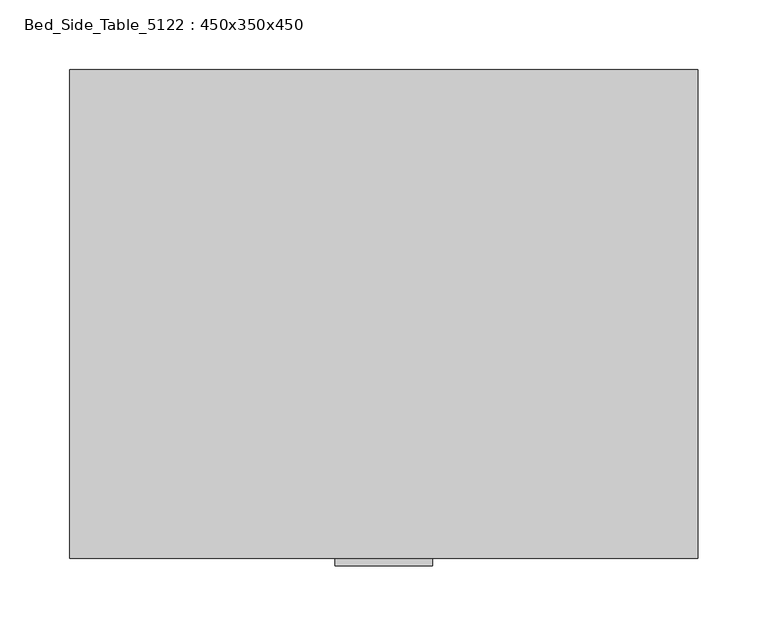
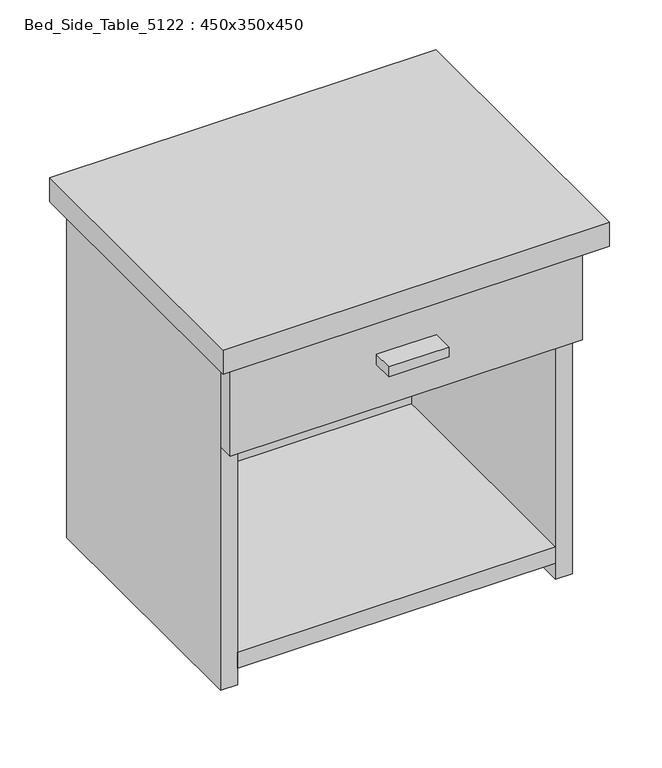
"""IFC4 building model written with IfcOpenShell, lengths in millimetres: furniture geometry, Bed_Side_Table_5122 : 450x350x450."""

from ifc_helpers import new_model, si_unit, frame, origin, origin_with_axes, place, context, project, spatial, polyline, outline, extrude, source, transform, mapped, element, save


def bed_side_table_5122_450x350x450_1b9dee2a(model_context):
    return source(origin(), model_context, "Body", "SweptSolid", [
        extrude(outline(polyline([(185.0, -208.6), (-185.0, -208.6), (-185.0, 81.4), (185.0, 81.4), (185.0, -208.6)])), frame((0.0, 0.0, 20.0), z_axis=(0.0, 0.0, 1.0), x_axis=(1.0, 0.0, 0.0)), (0.0, 0.0, 1.0), 20.0),
        extrude(outline(polyline([(-205.0, -208.6), (-205.0, 101.4), (205.0, 101.4), (205.0, -208.6), (185.0, -208.6), (185.0, 81.4), (-185.0, 81.4), (-185.0, -208.6), (-205.0, -208.6)])), origin_with_axes(), (0.0, 0.0, 1.0), 420.0),
        extrude(outline(polyline([(35.0, -254.0), (-35.0, -254.0), (-35.0, -228.6), (35.0, -228.6), (35.0, -254.0)])), frame((0.0, 0.0, 354.0), z_axis=(0.0, 0.0, 1.0), x_axis=(1.0, 0.0, 0.0)), (0.0, 0.0, 1.0), 12.0),
        extrude(outline(polyline([(-205.0, -208.6), (-185.0, -208.6), (-185.0, 81.4), (185.0, 81.4), (185.0, -208.6), (205.0, -208.6), (205.0, -228.6), (-205.0, -228.6), (-205.0, -208.6)])), frame((0.0, 0.0, 300.0), z_axis=(0.0, 0.0, 1.0), x_axis=(1.0, 0.0, 0.0)), (0.0, 0.0, 1.0), 120.0),
        extrude(outline(polyline([(-225.0, 101.4), (225.0, 101.4), (225.0, -248.6), (-225.0, -248.6), (-225.0, 101.4)])), frame((0.0, 0.0, 420.0), z_axis=(0.0, 0.0, 1.0), x_axis=(1.0, 0.0, 0.0)), (0.0, 0.0, 1.0), 30.0),
    ])


if __name__ == "__main__":
    model = new_model("IFC4")
    model_context = context("Model", 3, world=origin())
    ifc_project = project(units=[si_unit("LENGTHUNIT", "METRE", prefix="MILLI")], contexts=[model_context])
    site = spatial("IfcSite", under=ifc_project)
    building = spatial("IfcBuilding", under=site)
    placement = place(None, origin())
    bed_side_table_5122_450x350x450_shape = bed_side_table_5122_450x350x450_1b9dee2a(model_context)
    element("IfcFurniture", 1, ObjectType="Bed_Side_Table_5122 : 450x350x450", at=placement, inside=building, context=model_context, shape_type="MappedRepresentation", body=[
        mapped(bed_side_table_5122_450x350x450_shape, transform((0.0, 0.0, 0.0), x_axis=(1.0, 0.0, 0.0), y_axis=(0.0, 1.0, 0.0), z_axis=(0.0, 0.0, 1.0))),
    ])
    save(model, "model.ifc")
